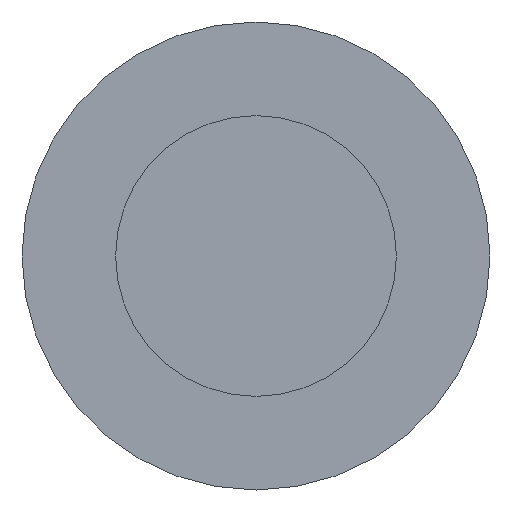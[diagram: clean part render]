
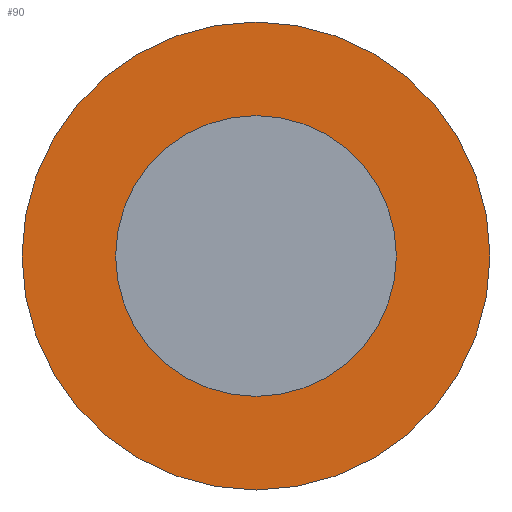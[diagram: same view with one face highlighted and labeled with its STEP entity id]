
A CAD part, front view. The second image highlights one B-rep face of the part: STEP entity #90.
In plain terms, the highlighted planar face has unit normal (0, -1, 0).
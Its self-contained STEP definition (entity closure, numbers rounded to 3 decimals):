
#15=FACE_BOUND('',#34,.T.);
#19=PLANE('',#117);
#26=FACE_OUTER_BOUND('',#33,.T.);
#33=EDGE_LOOP('',(#78));
#34=EDGE_LOOP('',(#79));
#43=CIRCLE('',#107,1.5);
#48=CIRCLE('',#116,2.5);
#49=VERTEX_POINT('',#152);
#54=VERTEX_POINT('',#168);
#55=EDGE_CURVE('',#49,#49,#43,.T.);
#63=EDGE_CURVE('',#54,#54,#48,.T.);
#78=ORIENTED_EDGE('',*,*,#63,.T.);
#79=ORIENTED_EDGE('',*,*,#55,.T.);
#90=ADVANCED_FACE('',(#26,#15),#19,.T.);
#107=AXIS2_PLACEMENT_3D('',#153,#123,#124);
#116=AXIS2_PLACEMENT_3D('',#170,#144,#145);
#117=AXIS2_PLACEMENT_3D('',#171,#146,#147);
#123=DIRECTION('center_axis',(0.,1.,0.));
#124=DIRECTION('ref_axis',(0.,0.,1.));
#144=DIRECTION('center_axis',(0.,-1.,0.));
#145=DIRECTION('ref_axis',(1.,0.,0.));
#146=DIRECTION('center_axis',(0.,-1.,0.));
#147=DIRECTION('ref_axis',(-1.,0.,0.));
#152=CARTESIAN_POINT('',(0.,0.,-1.5));
#153=CARTESIAN_POINT('Origin',(0.,0.,0.));
#168=CARTESIAN_POINT('',(-2.5,0.,0.));
#170=CARTESIAN_POINT('Origin',(0.,0.,0.));
#171=CARTESIAN_POINT('Origin',(0.,0.,0.));
